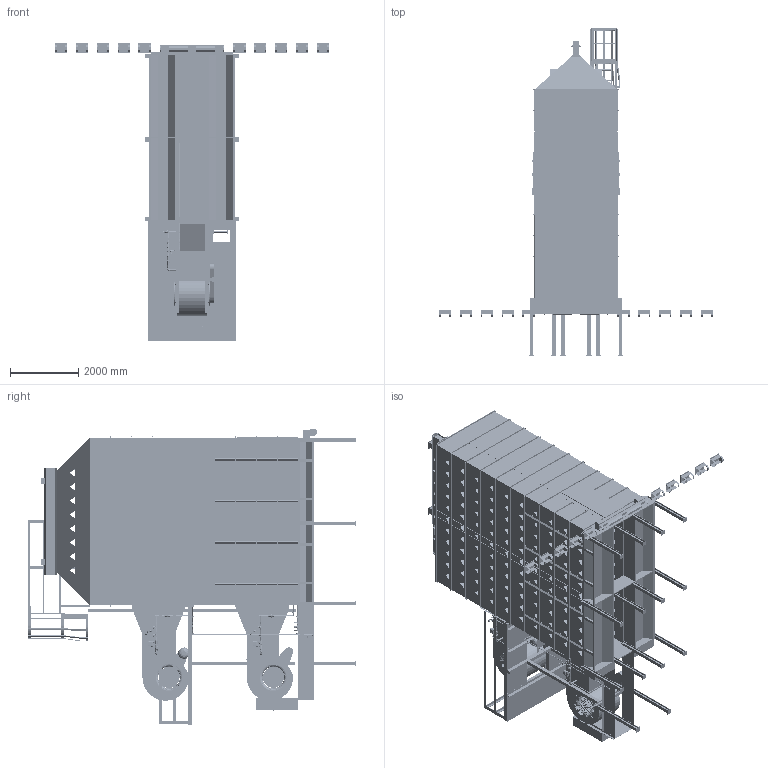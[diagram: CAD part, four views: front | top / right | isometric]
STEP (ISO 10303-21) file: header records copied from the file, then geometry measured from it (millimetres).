
FILE_DESCRIPTION(/* description */ ('PLAN AND ELEVATION VIEW FOR D16120 WITH ROOF & LEVEL AUGER'),/* implementation_level */ '2;1');
FILE_NAME(/* name */ 'C:\Engineering\Designs\Sales\Dryer\Workspaces\D16 All\D16120LA.stp',/* time_stamp */ '2025-01-06T16:47:49-06:00',/* author */ ('max.fleming'),/* organization */ (''),/* preprocessor_version */ 'ST-DEVELOPER v18.1',/* originating_system */ 'Autodesk Inventor 2022',/* authorisation */ '');
FILE_SCHEMA (('AUTOMOTIVE_DESIGN { 1 0 10303 214 3 1 1 }'));
Products named in the file (30): D16120LA; 16FT FRAME; 8FT LHRH FRAME; 16FT CATWALK; 16FT ROOF GF; 8FTRoof GF LHRH; Tongue; 16FT BODY TIER; LH Body; RH Body; LH Body_MIR6; RH Body_MIR6; Outside Splice; Standard Size End Plenum Panels; Ladder 2' section; Trans & Blower; Belt Shield; Screen Guard; LP Fuel; Stiffeners; Platform; Platform Support 1-T; 1 Tier Vertical Support; Level Auger 16'; Level Auger; 8'' Intake; 6'' CROSS AUGER; Leg Kit-02; LP Inlet; Liquid Propane Pipe
Assembly tree (113 placements, depth 3):
  D16120LA
    16FT FRAME
      8FT LHRH FRAME  x2
    16FT CATWALK
    16FT ROOF GF
      8FTRoof GF LHRH  x2
    Tongue
    16FT BODY TIER  x10
      LH Body
      RH Body
      LH Body_MIR6
      RH Body_MIR6
      Outside Splice
    Leg Kit-02  x12
    Standard Size End Plenum Panels  x17
    Trans & Blower  x2
    Belt Shield  x2
    Screen Guard  x4
    LP Fuel  x2
    Stiffeners  x32
    Platform
    Platform Support 1-T
    1 Tier Vertical Support  x8
    LP Inlet
    Liquid Propane Pipe  x5
  Ladder 2' section
  Level Auger 16'
    Level Auger  x2
  8'' Intake
  6'' CROSS AUGER
Bounding box: 8007.35 x 9558.74 x 8695.06 mm (x, y, z)
Volume: 55298669963.4 mm3; surface area: 775411381.3 mm2
Topology: 463 solids, 621 shells, 36935 faces, 95650 edges, 61053 vertices
Faces by surface type: plane 17171, cylinder 10828, bspline 3771, cone 3392, torus 1591, sphere 182
Full cylindrical faces by diameter (mm): 1 x10, 1.651 x6, 1.753 x6, 1.778 x12, 2.019 x4, 2.108 x2, 2.286 x24, 2.489 x2, 2.54 x4, 3.091 x288, 3.175 x5, 3.251 x20, 3.306 x288, 3.522 x2, 3.658 x28, 3.8 x16, 4 x384, 4.039 x20, 4.166 x256, 4.191 x4, 4.229 x2, 4.267 x2, 4.369 x8, 4.445 x8, 4.701 x592, 4.762 x16, 4.851 x8, 4.928 x32, 5.283 x2, 5.527 x20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
Entity records: 736782 total; most frequent: CARTESIAN_POINT 335487, ORIENTED_EDGE 84072, DIRECTION 75076, EDGE_CURVE 42176, VERTEX_POINT 26912, AXIS2_PLACEMENT_3D 26184, LINE 22708, VECTOR 22708
